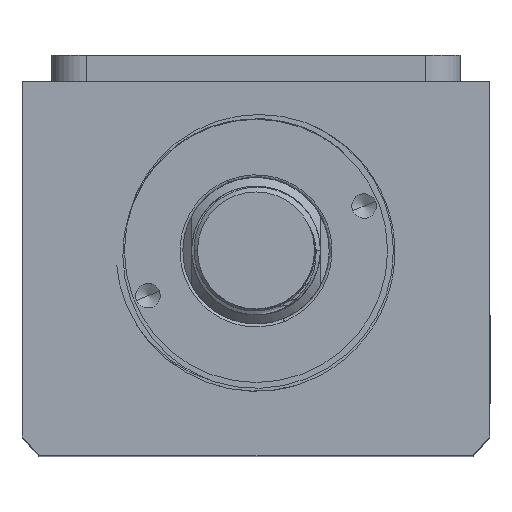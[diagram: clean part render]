
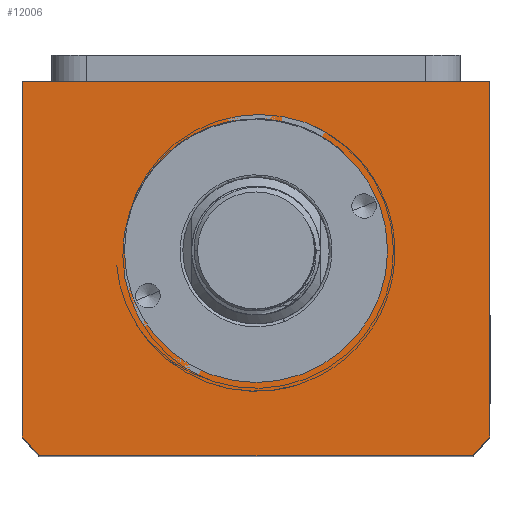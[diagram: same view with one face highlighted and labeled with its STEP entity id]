
A CAD part, top view. The second image highlights one B-rep face of the part: STEP entity #12006.
In plain terms, the highlighted planar face has unit normal (0, 0, 1).
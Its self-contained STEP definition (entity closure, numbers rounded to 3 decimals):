
#27 = EDGE_LOOP ( 'NONE', ( #6231, #197 ) ) ;
#81 = CARTESIAN_POINT ( 'NONE',  ( -40., -32., 120. ) ) ;
#197 = ORIENTED_EDGE ( 'NONE', *, *, #1473, .F. ) ;
#453 = DIRECTION ( 'NONE',  ( 1., 0., 0. ) ) ;
#465 = CARTESIAN_POINT ( 'NONE',  ( 40., 32., 120. ) ) ;
#610 = EDGE_LOOP ( 'NONE', ( #8069, #2036, #12801, #1366, #1030, #3200 ) ) ;
#892 = EDGE_CURVE ( 'NONE', #7371, #11679, #2180, .T. ) ;
#939 = CARTESIAN_POINT ( 'NONE',  ( 40., -28.639, 120. ) ) ;
#1030 = ORIENTED_EDGE ( 'NONE', *, *, #10883, .T. ) ;
#1366 = ORIENTED_EDGE ( 'NONE', *, *, #12554, .T. ) ;
#1473 = EDGE_CURVE ( 'NONE', #8291, #2868, #2677, .T. ) ;
#1729 = VERTEX_POINT ( 'NONE', #10853 ) ;
#1828 = PLANE ( 'NONE',  #2841 ) ;
#1989 = CARTESIAN_POINT ( 'NONE',  ( 40., 32., 120. ) ) ;
#2036 = ORIENTED_EDGE ( 'NONE', *, *, #12887, .T. ) ;
#2180 = LINE ( 'NONE', #12706, #5035 ) ;
#2446 = LINE ( 'NONE', #81, #5982 ) ;
#2677 = CIRCLE ( 'NONE', #13232, 22.5 ) ;
#2805 = LINE ( 'NONE', #1989, #3966 ) ;
#2841 = AXIS2_PLACEMENT_3D ( 'NONE', #11478, #12604, #6138 ) ;
#2868 = VERTEX_POINT ( 'NONE', #10409 ) ;
#2999 = DIRECTION ( 'NONE',  ( 0., 0., 1. ) ) ;
#3073 = DIRECTION ( 'NONE',  ( 0., 1., 0. ) ) ;
#3200 = ORIENTED_EDGE ( 'NONE', *, *, #892, .T. ) ;
#3607 = FACE_BOUND ( 'NONE', #27, .T. ) ;
#3966 = VECTOR ( 'NONE', #3073, 1000. ) ;
#4043 = CARTESIAN_POINT ( 'NONE',  ( 0., 3., 120. ) ) ;
#4128 = CIRCLE ( 'NONE', #4252, 22.5 ) ;
#4252 = AXIS2_PLACEMENT_3D ( 'NONE', #9425, #2999, #10532 ) ;
#5035 = VECTOR ( 'NONE', #10357, 1000. ) ;
#5122 = DIRECTION ( 'NONE',  ( 1., 0., 0. ) ) ;
#5405 = DIRECTION ( 'NONE',  ( 1., 0., 0. ) ) ;
#5423 = AXIS2_PLACEMENT_3D ( 'NONE', #13325, #6857, #453 ) ;
#5982 = VECTOR ( 'NONE', #5405, 1000. ) ;
#6047 = DIRECTION ( 'NONE',  ( 0., 0., 1. ) ) ;
#6138 = DIRECTION ( 'NONE',  ( 1., 0., 0. ) ) ;
#6231 = ORIENTED_EDGE ( 'NONE', *, *, #12095, .F. ) ;
#6857 = DIRECTION ( 'NONE',  ( 0., 0., 1. ) ) ;
#7317 = AXIS2_PLACEMENT_3D ( 'NONE', #4043, #11589, #5122 ) ;
#7371 = VERTEX_POINT ( 'NONE', #465 ) ;
#7713 = CARTESIAN_POINT ( 'NONE',  ( 0., 3., 120. ) ) ;
#7907 = DIRECTION ( 'NONE',  ( 1., 0., 0. ) ) ;
#8069 = ORIENTED_EDGE ( 'NONE', *, *, #11132, .T. ) ;
#8275 = CARTESIAN_POINT ( 'NONE',  ( -37.094, -32., 120. ) ) ;
#8291 = VERTEX_POINT ( 'NONE', #11927 ) ;
#8329 = VECTOR ( 'NONE', #12855, 1000. ) ;
#8660 = CIRCLE ( 'NONE', #5423, 51. ) ;
#8918 = CARTESIAN_POINT ( 'NONE',  ( 37.094, -32., 120. ) ) ;
#8989 = FACE_OUTER_BOUND ( 'NONE', #610, .T. ) ;
#9268 = VERTEX_POINT ( 'NONE', #8918 ) ;
#9425 = CARTESIAN_POINT ( 'NONE',  ( 0., 3., 120. ) ) ;
#10357 = DIRECTION ( 'NONE',  ( -1., 0., 0. ) ) ;
#10409 = CARTESIAN_POINT ( 'NONE',  ( 22.5, 3., 120. ) ) ;
#10532 = DIRECTION ( 'NONE',  ( 1., 0., 0. ) ) ;
#10853 = CARTESIAN_POINT ( 'NONE',  ( -40., -28.639, 120. ) ) ;
#10883 = EDGE_CURVE ( 'NONE', #12218, #7371, #2805, .T. ) ;
#10944 = VERTEX_POINT ( 'NONE', #8275 ) ;
#11132 = EDGE_CURVE ( 'NONE', #11679, #1729, #11206, .T. ) ;
#11206 = LINE ( 'NONE', #11777, #8329 ) ;
#11478 = CARTESIAN_POINT ( 'NONE',  ( 0., 0., 120. ) ) ;
#11589 = DIRECTION ( 'NONE',  ( 0., 0., 1. ) ) ;
#11679 = VERTEX_POINT ( 'NONE', #13072 ) ;
#11777 = CARTESIAN_POINT ( 'NONE',  ( -40., 32., 120. ) ) ;
#11927 = CARTESIAN_POINT ( 'NONE',  ( -22.5, 3., 120. ) ) ;
#12006 = ADVANCED_FACE ( 'NONE', ( #3607, #8989 ), #1828, .T. ) ;
#12095 = EDGE_CURVE ( 'NONE', #2868, #8291, #4128, .T. ) ;
#12218 = VERTEX_POINT ( 'NONE', #939 ) ;
#12394 = EDGE_CURVE ( 'NONE', #10944, #9268, #2446, .T. ) ;
#12554 = EDGE_CURVE ( 'NONE', #9268, #12218, #8660, .T. ) ;
#12604 = DIRECTION ( 'NONE',  ( 0., 0., 1. ) ) ;
#12706 = CARTESIAN_POINT ( 'NONE',  ( -40., 32., 120. ) ) ;
#12724 = CIRCLE ( 'NONE', #7317, 51. ) ;
#12801 = ORIENTED_EDGE ( 'NONE', *, *, #12394, .T. ) ;
#12855 = DIRECTION ( 'NONE',  ( 0., -1., 0. ) ) ;
#12887 = EDGE_CURVE ( 'NONE', #1729, #10944, #12724, .T. ) ;
#13072 = CARTESIAN_POINT ( 'NONE',  ( -40., 32., 120. ) ) ;
#13232 = AXIS2_PLACEMENT_3D ( 'NONE', #7713, #6047, #7907 ) ;
#13325 = CARTESIAN_POINT ( 'NONE',  ( 0., 3., 120. ) ) ;
